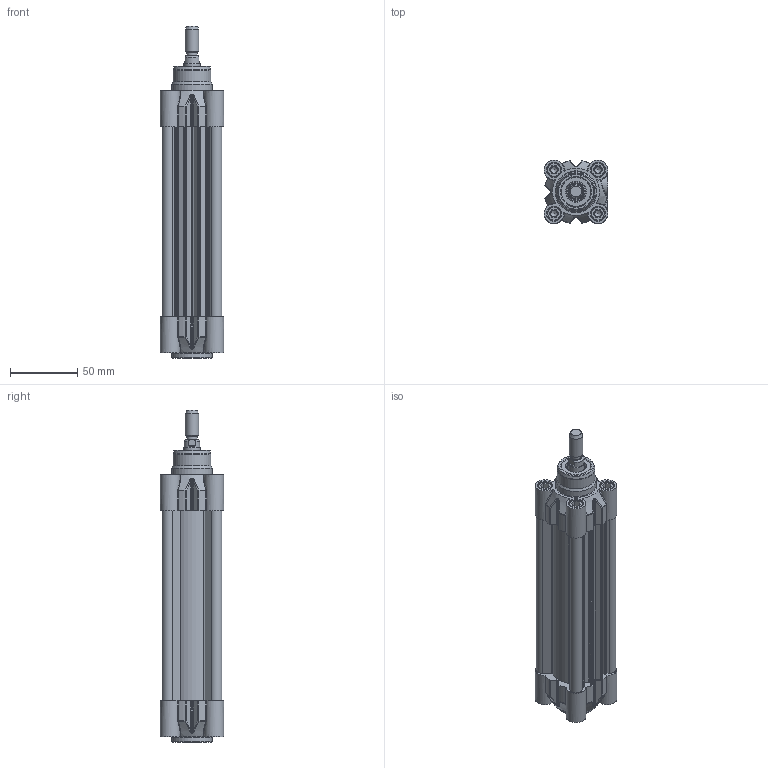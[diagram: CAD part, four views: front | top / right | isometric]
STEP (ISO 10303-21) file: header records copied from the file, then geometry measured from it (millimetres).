
FILE_DESCRIPTION(/* description */ ('CILINDRO D.E. MAGNETICO AMMORTIZZATO ISO 15552'),/* implementation_level */ '2;1');
FILE_NAME(/* name */ 'T:\Archivio Inventor\- 00 NUOVI STP PER SITO CON STELO CHE SI MUOVE\SERIE H - U\SERIE HDM\HDM032-TUBO NUOVO\HDM032.100.GS.M.stp',/* time_stamp */ '2018-07-25T10:57:23+02:00',/* author */ ('carlo.corazza'),/* organization */ (''),/* preprocessor_version */ 'ST-DEVELOPER v16.5',/* originating_system */ 'Autodesk Inventor 2017',/* authorisation */ '');
FILE_SCHEMA (('AUTOMOTIVE_DESIGN { 1 0 10303 214 3 1 1 }'));
Length unit declared in the file: millimetre
Products named in the file (5): HDM032.100.GS.M; TP; STELO-100; TA; CORPO-100
Assembly tree (4 placements, depth 2):
  HDM032.100.GS.M
    TP
    STELO-100
    TA
    CORPO-100
Bounding box: 47 x 47 x 246 mm (x, y, z)
Volume: 186300.2 mm3; surface area: 117548.5 mm2
Topology: 4 solids, 18 shells, 969 faces, 2356 edges, 1494 vertices
Faces by surface type: plane 330, cylinder 260, bspline 190, cone 86, torus 83, sphere 20
Full cylindrical faces by diameter (mm): 2 x2, 2.1 x2, 4 x2, 4.5 x2, 4.917 x8, 6 x8, 6.2 x8, 6.3 x4, 7 x2, 7.8 x4, 7.9 x3, 8 x4, 8.566 x2, 10 x9, 10.3 x8, 11.6 x1, 12 x1, 12.8 x1, 12.847 x1, 16 x1, 17 x2, 22 x3, 28 x1, 30 x2, 32 x1
Entity records: 31186 total; most frequent: CARTESIAN_POINT 9171, ORIENTED_EDGE 4162, DIRECTION 4048, EDGE_CURVE 2081, AXIS2_PLACEMENT_3D 1569, VERTEX_POINT 1436, EDGE_LOOP 1302, FACE_OUTER_BOUND 969
